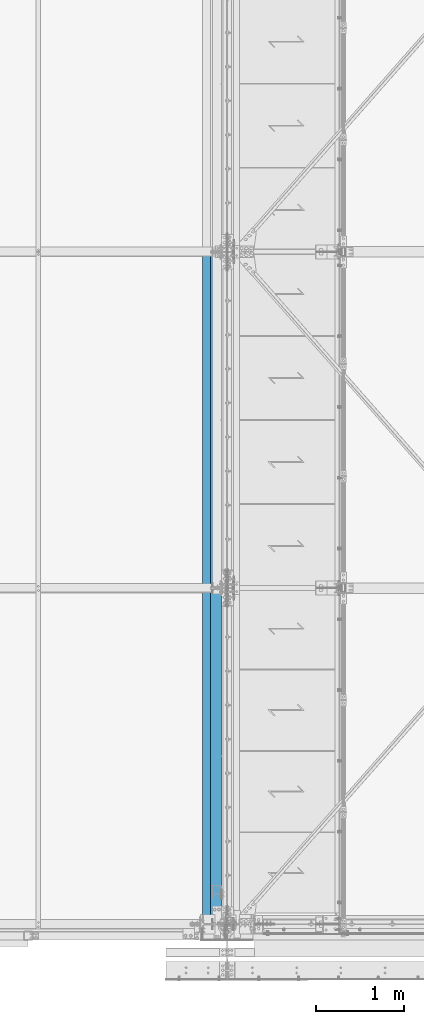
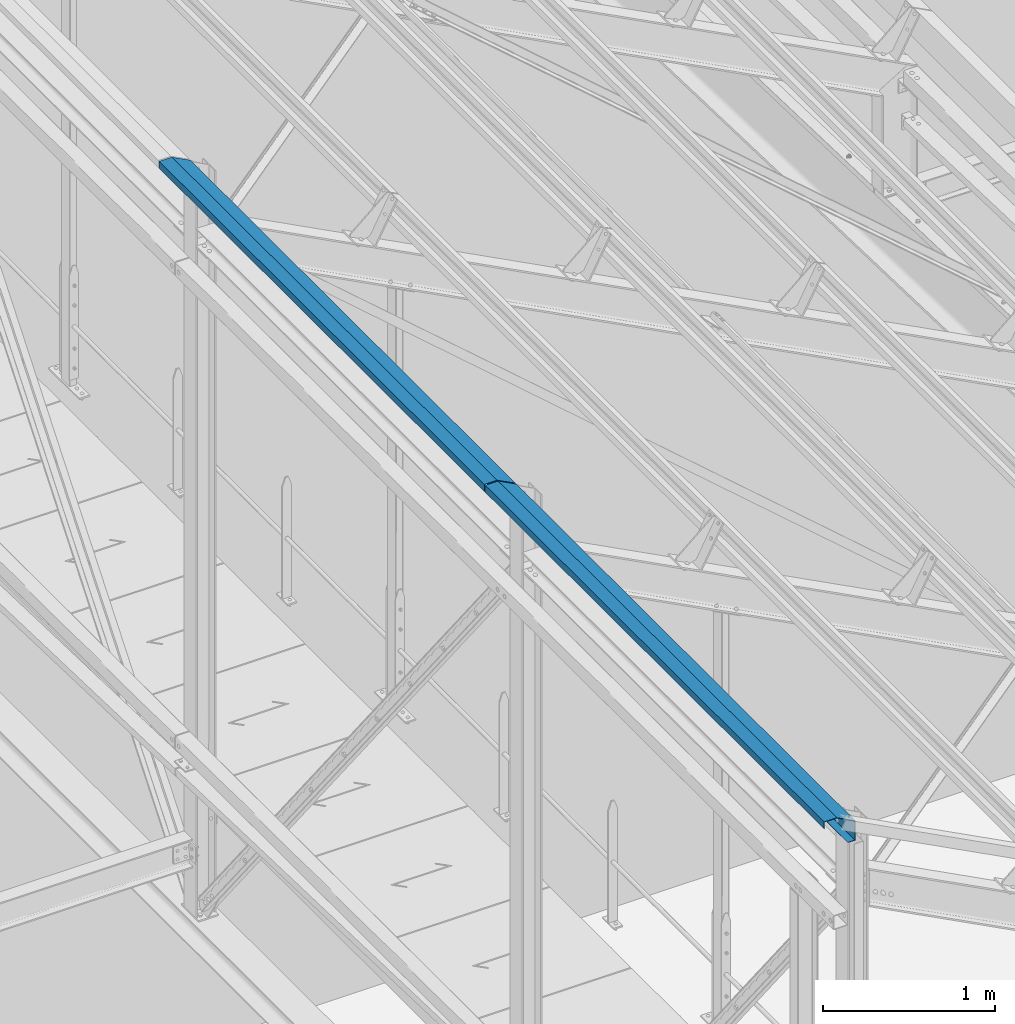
# One storey, part 343 of 362: 2 beams, 2 elements without a shape of their own.
"""IFC2X3 building model written with IfcOpenShell, lengths in millimetres."""

import ifcopenshell
import ifcopenshell.guid

model = None  # the IFC model being written
_history = None  # IfcOwnerHistory: only IFC2X3 demands one
_inside = {}  # id of a spatial element -> (the spatial element, [elements in it])
_under = {}  # id of a project, library or spatial element -> (it, [spatial elements below it])
_declared = {}  # id of a project -> (the project, [libraries it declares])
_typed = {}  # id of a type object -> (the type object, [elements of that type])
_made_of = {}  # id of a material, layer set ... -> (it, [elements and type objects made of it])


def new_model(schema):
    """Start an empty IFC model of exactly this schema.

    Asked for "IFC4X3", IfcOpenShell would pick the latest addendum, in which some entities
    have other attributes; the version numbers below select the first issue.
    IFC2X3 requires an IfcOwnerHistory on every rooted entity: one is made here for all.
    """
    global model, _history
    if schema == "IFC4X3":
        model = ifcopenshell.file(schema_version=(4, 3, 0, 0))
    else:
        model = ifcopenshell.file(schema=schema)
    _inside.clear()
    _under.clear()
    _declared.clear()
    _typed.clear()
    _made_of.clear()
    _history = None
    if model.schema == "IFC2X3":
        org = make("IfcOrganization", Name="unknown")
        user = make(
            "IfcPersonAndOrganization",
            ThePerson=make("IfcPerson", FamilyName="unknown"),
            TheOrganization=org,
        )
        app = make(
            "IfcApplication",
            ApplicationDeveloper=org,
            Version="unknown",
            ApplicationFullName="unknown",
            ApplicationIdentifier="unknown",
        )
        _history = make(
            "IfcOwnerHistory",
            OwningUser=user,
            OwningApplication=app,
            ChangeAction="ADDED",
            CreationDate=0,
        )
    return model


def make(cls, **values):
    """One entity of the class cls with the attributes given. An attribute that is None is left unset."""
    return model.create_entity(
        cls, **{name: value for name, value in values.items() if value is not None}
    )


def rooted(cls, **values):
    """An entity with a GlobalId (a new one), such as an element, a storey or a relation."""
    return make(cls, GlobalId=ifcopenshell.guid.new(), OwnerHistory=_history, **values)


def si_unit(unit_type, name, prefix=None):
    """IfcSIUnit, for example si_unit("LENGTHUNIT", "METRE", prefix="MILLI")."""
    return make("IfcSIUnit", UnitType=unit_type, Prefix=prefix, Name=name)


def assignment(units):
    """IfcUnitAssignment: the units of a project."""
    return None if units is None else make("IfcUnitAssignment", Units=units)


def point(xyz):
    """IfcCartesianPoint."""
    return None if xyz is None else make("IfcCartesianPoint", Coordinates=xyz)


def direction(xyz):
    """IfcDirection."""
    return None if xyz is None else make("IfcDirection", DirectionRatios=xyz)


def frame(location, z_axis=None, x_axis=None):
    """IfcAxis2Placement3D, a coordinate frame: its origin and axes. An axis left out is left unset."""
    return make(
        "IfcAxis2Placement3D",
        Location=point(location),
        Axis=direction(z_axis),
        RefDirection=direction(x_axis),
    )


def origin_with_axes():
    """The frame at (0, 0, 0) with the z axis (0, 0, 1) and the x axis (1, 0, 0) written out."""
    return frame((0.0, 0.0, 0.0), z_axis=(0.0, 0.0, 1.0), x_axis=(1.0, 0.0, 0.0))


def place(relative_to, where):
    """IfcLocalPlacement: puts the frame where relative to a parent placement (None: the world)."""
    return make(
        "IfcLocalPlacement", PlacementRelTo=relative_to, RelativePlacement=where
    )


def context(
    kind, dimensions, precision=None, world=None, true_north=None, identifier=None
):
    """IfcGeometricRepresentationContext, for example the 3D "Model" context."""
    return make(
        "IfcGeometricRepresentationContext",
        ContextIdentifier=identifier,
        ContextType=kind,
        CoordinateSpaceDimension=dimensions,
        Precision=precision,
        WorldCoordinateSystem=world,
        TrueNorth=true_north,
    )


def subcontext(parent, identifier, kind, view, scale=None):
    """IfcGeometricRepresentationSubContext, for example "Body" below "Model"."""
    return make(
        "IfcGeometricRepresentationSubContext",
        ContextIdentifier=identifier,
        ContextType=kind,
        ParentContext=parent,
        TargetScale=scale,
        TargetView=view,
    )


def project(units=None, contexts=None):
    """IfcProject with its units and contexts."""
    return rooted(
        "IfcProject",
        Name="project",
        RepresentationContexts=contexts,
        UnitsInContext=assignment(units),
    )


def spatial(cls, under=None, at=None, **own):
    """A site, building, storey or space (cls), placed at a placement, below another one or the project."""
    s = rooted(cls, ObjectPlacement=at, **own)
    if under is not None:
        _under.setdefault(under.id(), (under, []))[1].append(s)
    return s


def faces_of(points, faces, orient=None, outer=None):
    """IfcFace entities. A face is a list of loops; a loop is a list of indices into points, from 0.

    orient and outer hold one flag for each loop. By default every Orientation is true, the
    first loop of a face is its IfcFaceOuterBound and the others are IfcFaceBound.
    """
    made = []
    for i, loops in enumerate(faces):
        bounds = []
        for j, loop in enumerate(loops):
            is_outer = j == 0 if outer is None else outer[i][j]
            bounds.append(
                make(
                    "IfcFaceOuterBound" if is_outer else "IfcFaceBound",
                    Bound=make("IfcPolyLoop", Polygon=[points[k] for k in loop]),
                    Orientation=True if orient is None else orient[i][j],
                )
            )
        made.append(make("IfcFace", Bounds=bounds))
    return made


def faceted_brep(points, faces, orient=None, outer=None, voids=None):
    """IfcFacetedBrep: a solid bounded by flat faces; with voids (closed shells), ...WithVoids."""
    shared = [point(p) for p in points]
    hull = make("IfcClosedShell", CfsFaces=faces_of(shared, faces, orient, outer))
    if voids is None:
        return make("IfcFacetedBrep", Outer=hull)
    return make(
        "IfcFacetedBrepWithVoids",
        Outer=hull,
        Voids=[
            make(cls, CfsFaces=faces_of(shared, fs, o, b)) for cls, fs, o, b in voids
        ],
    )


def shape(context_of_items, identifier, shape_type, items):
    """IfcShapeRepresentation: the items that make up one representation, for example the "Body"."""
    return make(
        "IfcShapeRepresentation",
        ContextOfItems=context_of_items,
        RepresentationIdentifier=identifier,
        RepresentationType=shape_type,
        Items=items,
    )


def material(Name=None, Category=None):
    """IfcMaterial."""
    return make("IfcMaterial", Name=Name, Category=Category)


def made_of(thing, what):
    """Note that an element or type object is made of a material, layer set ...; save() writes the relation."""
    if what is not None:
        _made_of.setdefault(what.id(), (what, []))[1].append(thing)
    return thing


def type_object(cls, material=None, **own):
    """A type object (cls), such as IfcWallType, which elements share."""
    return made_of(rooted(cls, **own), material)


def element(
    cls,
    number,
    at=None,
    inside=None,
    cuts=None,
    type_object=None,
    material=None,
    context=None,
    identifier="Body",
    shape_type=None,
    held_by="IfcProductDefinitionShape",
    body=None,
    shapes=None,
    **own,
):
    """One element of the class cls, such as IfcWall. Its Tag is "e" and its number.

    at: its placement. inside: the storey or other place that contains it. cuts: it is an
    opening in that element (IfcRelVoidsElement). A single representation is given by context,
    identifier, shape_type and body (its items); several are given by shapes. held_by: the class
    of the entity that holds the representations. save() writes the other relations.
    """
    e = rooted(cls, Tag="e%d" % number, ObjectPlacement=at, **own)
    if body is not None:
        shapes = [shape(context, identifier, shape_type, body)]
    if shapes is not None:
        e.Representation = make(held_by, Representations=shapes)
    if inside is not None:
        _inside.setdefault(inside.id(), (inside, []))[1].append(e)
    if cuts is not None:
        rooted(
            "IfcRelVoidsElement", RelatingBuildingElement=cuts, RelatedOpeningElement=e
        )
    if type_object is not None:
        _typed.setdefault(type_object.id(), (type_object, []))[1].append(e)
    return made_of(e, material)


def aggregate(whole, parts):
    """IfcRelAggregates: a whole, such as a stair, and the parts it consists of."""
    return rooted("IfcRelAggregates", RelatingObject=whole, RelatedObjects=parts)


def save(model, path):
    """Write the relations noted so far, then the file.

    IfcRelAggregates (storeys below a building ...), IfcRelContainedInSpatialStructure (elements
    in a storey), IfcRelDefinesByType, IfcRelAssociatesMaterial and IfcRelDeclares: one each for
    every whole, place, type object, material and project.
    """
    for whole, parts in _under.values():
        aggregate(whole, parts)
    for where, things in _inside.values():
        rooted(
            "IfcRelContainedInSpatialStructure",
            RelatedElements=things,
            RelatingStructure=where,
        )
    for kind, things in _typed.values():
        rooted("IfcRelDefinesByType", RelatedObjects=things, RelatingType=kind)
    for what, things in _made_of.values():
        rooted("IfcRelAssociatesMaterial", RelatedObjects=things, RelatingMaterial=what)
    for by, libraries in _declared.values():
        rooted("IfcRelDeclares", RelatingContext=by, RelatedDefinitions=libraries)
    model.write(path)


model = new_model("IFC2X3")

# Units and contexts
model_context = context("Model", 3, precision=1e-05, world=origin_with_axes())
body_context = subcontext(model_context, "Body", "Model", "MODEL_VIEW")
ifc_project = project(units=[si_unit("LENGTHUNIT", "METRE", prefix="MILLI"), si_unit("AREAUNIT", "SQUARE_METRE"), si_unit("VOLUMEUNIT", "CUBIC_METRE"), si_unit("MASSUNIT", "GRAM", prefix="KILO"), si_unit("TIMEUNIT", "SECOND"), si_unit("PLANEANGLEUNIT", "RADIAN"), si_unit("SOLIDANGLEUNIT", "STERADIAN"), si_unit("THERMODYNAMICTEMPERATUREUNIT", "DEGREE_CELSIUS"), si_unit("LUMINOUSINTENSITYUNIT", "LUMEN")], contexts=[model_context])

# Site, building, storey
site_placement = place(None, origin_with_axes())
site = spatial("IfcSite", under=ifc_project, at=site_placement, Name="Undefined", CompositionType="ELEMENT")
building_placement = place(site_placement, origin_with_axes())
building = spatial("IfcBuilding", under=site, at=building_placement, Name="Undefined", CompositionType="ELEMENT")
storey_placement = place(building_placement, origin_with_axes())
storey = spatial("IfcBuildingStorey", under=building, at=storey_placement, Name="Undefined", CompositionType="ELEMENT", Elevation=0.0)

# Assembly, beam
assembly_1_placement = place(storey_placement, origin_with_axes())
assembly_1 = element("IfcElementAssembly", 1, at=assembly_1_placement, inside=storey, Name="PANNE SHED", AssemblyPlace="NOTDEFINED", PredefinedType="NOTDEFINED")
ifc_material = material(Name="Undefined/S235-E24")
beam_type_1 = type_object("IfcBeamType", Name="PL3*3790", PredefinedType="NOTDEFINED")
beam_1_placement = place(assembly_1_placement, frame((12404.99999895, 5699.99999584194, 12628.7260697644), z_axis=(0.0, 1.0, 0.0), x_axis=(0.0, 0.0, 1.0)))
beam_1 = element("IfcBeam", 2, at=beam_1_placement, type_object=beam_type_1, material=ifc_material, Name="PANNE SHED", ObjectType="PL3*3790", context=body_context, shape_type="Brep", body=[
    faceted_brep([(-3.49427864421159e-08, -1.49999999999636, -1895.0), (-3.52956703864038e-08, -1.5, 1895.0), (3.49573383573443e-08, 1.5, 1895.0), (3.53102223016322e-08, 1.5, -1895.0), (47.0000011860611, 1.49999889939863, 1895.0), (47.0000011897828, 1.49999889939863, -1895.0), (50.0000011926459, -1.50000117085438, -1895.0), (50.0000011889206, -1.50000117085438, 1895.0), (47.0, 83.711228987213, 1895.0), (47.0, 83.711228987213, -1895.0), (50.0, 84.4485168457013, -1895.0), (50.0, 84.4485168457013, 1895.0), (-16.7103107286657, 205.5, 1895.0), (-16.7103107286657, 205.5, -1895.0), (-14.8939838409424, 208.5, -1895.0), (-14.8939838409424, 208.5, 1895.0), (-151.893997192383, 205.5, 1895.0), (-151.893997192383, 205.5, -1895.0), (-154.893997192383, 208.5, -1895.0), (-154.893997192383, 208.5, 1895.0), (-151.893997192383, 158.5, 1895.0), (-151.893997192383, 158.5, -1895.0), (-154.893997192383, 158.5, 1895.0), (-154.893997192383, 158.5, -1895.0)], [[[0, 1, 2, 3]], [[3, 2, 4, 5]], [[1, 0, 6, 7]], [[5, 4, 8, 9]], [[7, 6, 10, 11]], [[9, 8, 12, 13]], [[11, 10, 14, 15]], [[13, 12, 16, 17]], [[15, 14, 18, 19]], [[17, 16, 20, 21]], [[16, 12, 8, 4, 2, 1, 7, 11, 15, 19, 22, 20]], [[19, 18, 23, 22]], [[18, 14, 10, 6, 0, 3, 5, 9, 13, 17, 21, 23]], [[22, 23, 21, 20]]]),
])
aggregate(assembly_1, [beam_1])

assembly_2_placement = place(storey_placement, origin_with_axes())
assembly_2 = element("IfcElementAssembly", 3, at=assembly_2_placement, inside=storey, Name="PANNE SHED", AssemblyPlace="NOTDEFINED", PredefinedType="NOTDEFINED")
beam_type_2 = type_object("IfcBeamType", Name="PL3*3950", PredefinedType="NOTDEFINED")
beam_2_placement = place(assembly_2_placement, frame((12404.99999895, 1819.99999584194, 12628.7260697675), z_axis=(0.0, -1.0, 0.0), x_axis=(0.0, 0.0, 1.0)))
beam_2 = element("IfcBeam", 4, at=beam_2_placement, type_object=beam_type_2, material=ifc_material, Name="PANNE SHED", ObjectType="PL3*3950", context=body_context, shape_type="Brep", body=[
    faceted_brep([(-4.57112037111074e-09, -1.5, -1975.0), (-2.82489054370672e-09, -1.49999999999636, 1975.0), (4.56748239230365e-09, 1.50000000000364, 1975.0), (2.82125256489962e-09, 1.5, -1975.0), (50.0, 1.5, 1975.0), (50.0, 1.5, -1975.0), (47.0, -1.5, -1975.0), (47.0, -1.5, 1975.0), (50.0, -84.4485168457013, 1975.0), (50.0, -84.4485168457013, -1975.0), (47.0, -83.711228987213, -1975.0), (47.0, -83.711228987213, 1975.0), (-14.8939838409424, -208.5, 1975.0), (-14.8939838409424, -208.5, -1975.0), (-16.7103107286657, -205.5, -1975.0), (-16.7103107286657, -205.5, 1975.0), (-154.893997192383, -208.5, 1975.0), (-154.893997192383, -208.5, -1975.0), (-151.893997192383, -205.5, -1975.0), (-151.893997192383, -205.5, 1975.0), (-154.893997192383, -158.5, 1975.0), (-154.893997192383, -158.5, -1975.0), (-151.893997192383, -158.5, 1975.0), (-151.893997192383, -158.5, -1975.0)], [[[0, 1, 2, 3]], [[3, 2, 4, 5]], [[1, 0, 6, 7]], [[5, 4, 8, 9]], [[7, 6, 10, 11]], [[9, 8, 12, 13]], [[11, 10, 14, 15]], [[13, 12, 16, 17]], [[15, 14, 18, 19]], [[17, 16, 20, 21]], [[16, 12, 8, 4, 2, 1, 7, 11, 15, 19, 22, 20]], [[19, 18, 23, 22]], [[18, 14, 10, 6, 0, 3, 5, 9, 13, 17, 21, 23]], [[22, 23, 21, 20]]]),
])
aggregate(assembly_2, [beam_2])

save(model, "model.ifc")
